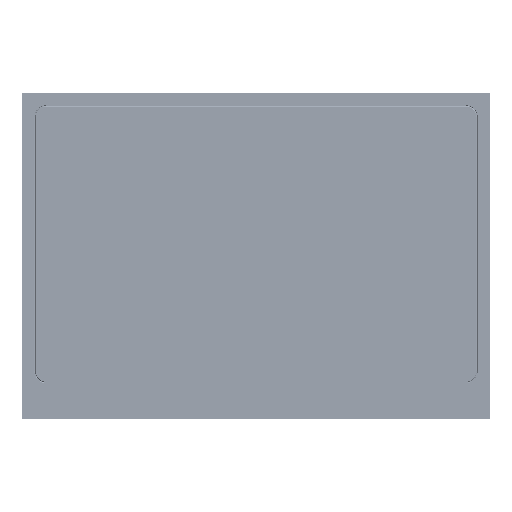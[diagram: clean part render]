
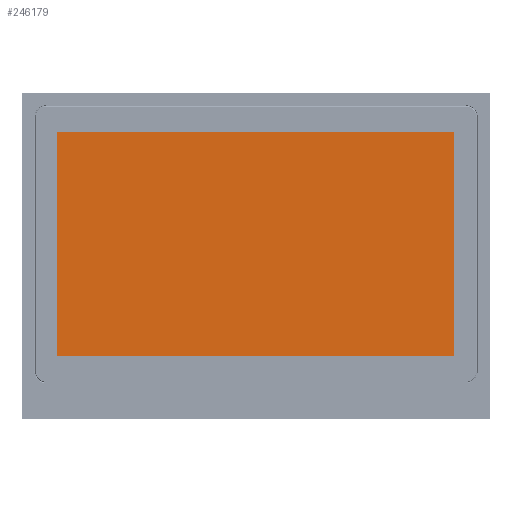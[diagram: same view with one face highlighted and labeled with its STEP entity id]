
A CAD part, top view. The second image highlights one B-rep face of the part: STEP entity #246179.
In plain terms, the highlighted planar face has unit normal (0, 0, 1).
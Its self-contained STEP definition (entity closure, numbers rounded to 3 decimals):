
#8438=FACE_OUTER_BOUND('',#21113,.T.);
#21113=EDGE_LOOP('',(#156194,#156195,#156196,#156197));
#39914=LINE('',#343636,#67576);
#39915=LINE('',#343638,#67577);
#39916=LINE('',#343640,#67578);
#39917=LINE('',#343641,#67579);
#67576=VECTOR('',#277647,10.);
#67577=VECTOR('',#277648,10.);
#67578=VECTOR('',#277649,10.);
#67579=VECTOR('',#277650,10.);
#95483=VERTEX_POINT('',#343634);
#95484=VERTEX_POINT('',#343635);
#95485=VERTEX_POINT('',#343637);
#95486=VERTEX_POINT('',#343639);
#119392=EDGE_CURVE('',#95483,#95484,#39914,.T.);
#119393=EDGE_CURVE('',#95484,#95485,#39915,.T.);
#119394=EDGE_CURVE('',#95485,#95486,#39916,.T.);
#119395=EDGE_CURVE('',#95486,#95483,#39917,.T.);
#156194=ORIENTED_EDGE('',*,*,#119392,.T.);
#156195=ORIENTED_EDGE('',*,*,#119393,.T.);
#156196=ORIENTED_EDGE('',*,*,#119394,.T.);
#156197=ORIENTED_EDGE('',*,*,#119395,.T.);
#225186=PLANE('',#259514);
#246179=ADVANCED_FACE('',(#8438),#225186,.T.);
#259514=AXIS2_PLACEMENT_3D('',#343633,#277645,#277646);
#277645=DIRECTION('center_axis',(0.,0.,
1.));
#277646=DIRECTION('ref_axis',(-1.,0.,0.));
#277647=DIRECTION('',(1.,0.,0.));
#277648=DIRECTION('',(0.,1.,0.));
#277649=DIRECTION('',(-1.,0.,0.));
#277650=DIRECTION('',(0.,-1.,0.));
#343633=CARTESIAN_POINT('Origin',(0.,12.2,
6.199));
#343634=CARTESIAN_POINT('',(-205.35,-103.1,6.199));
#343635=CARTESIAN_POINT('',(204.85,-103.1,6.199));
#343636=CARTESIAN_POINT('',(-0.125,-103.1,6.199));
#343637=CARTESIAN_POINT('',(204.85,127.7,6.199));
#343638=CARTESIAN_POINT('',(204.85,12.25,6.199));
#343639=CARTESIAN_POINT('',(-205.35,127.7,6.199));
#343640=CARTESIAN_POINT('',(-102.675,127.7,6.199));
#343641=CARTESIAN_POINT('',(-205.35,-45.45,6.199));
